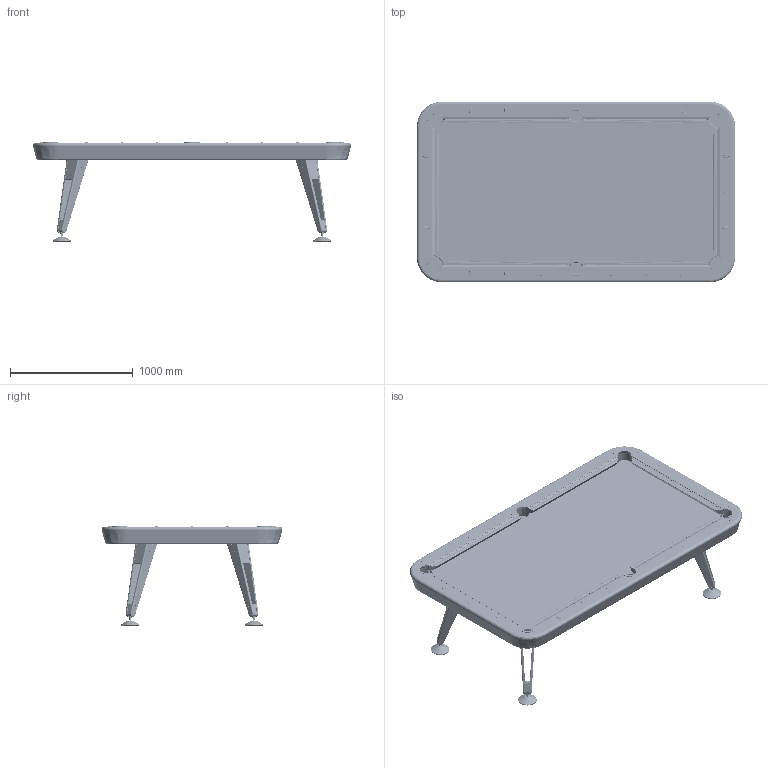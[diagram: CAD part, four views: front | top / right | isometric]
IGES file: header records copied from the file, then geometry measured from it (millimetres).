
Start section: START RECORD GO HERE.
Global section: file name: billar_8.igs; native system: DASSAULT SYSTEMES CATIA Version 5-6 Release 2017 - www.3ds.com; preprocessor: V5-6R2017_5.27.0.0.10-19-2016.20.00; author: ingenieria; organization: RAFA-PC; date: 20200206.111852; units: millimetre
Bounding box: 2594.4 x 1473.44 x 809.88 mm (x, y, z)
Surface area: 27882834.3 mm2 (no closed solid volume)
Topology: 0 solids, 0 shells, 7544 faces, 38268 edges, 38180 vertices
Faces by surface type: plane 4398, revolution 2798, bspline 348
